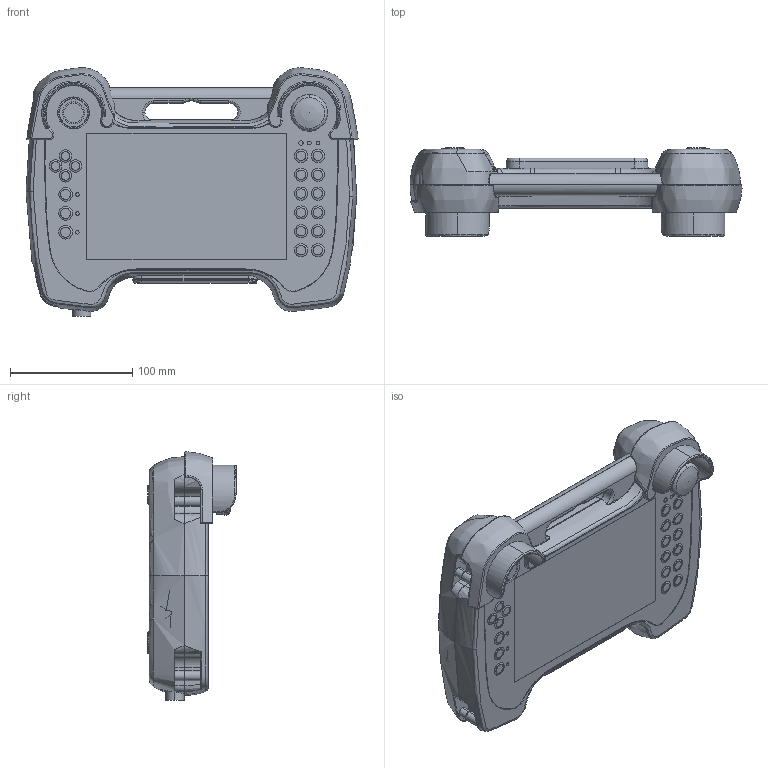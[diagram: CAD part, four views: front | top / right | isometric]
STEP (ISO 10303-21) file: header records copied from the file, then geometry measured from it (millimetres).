
FILE_DESCRIPTION (( 'STEP AP203' ), '1' );
FILE_NAME ('a.STEP', '2013-09-25T07:35:51', ( 'HW' ), ( '' ), 'SwSTEP 2.0', 'SolidWorks 2008', '' );
FILE_SCHEMA (( 'CONFIG_CONTROL_DESIGN' ));
Products named in the file (10): a.sldasm-Part-2; a.sldasm-Part-8; a.sldasm-Part-7; a; a.sldasm-Part-1; a.sldasm-Part-3; a.sldasm-Part-4; a.sldasm-Part-5; a.sldasm-Part-6; a.sldasm-Part-9
Assembly tree (9 placements, depth 2):
  a
    a.sldasm-Part-7
    a.sldasm-Part-1
    a.sldasm-Part-3
    a.sldasm-Part-5
    a.sldasm-Part-6
    a.sldasm-Part-8
    a.sldasm-Part-2
    a.sldasm-Part-4
    a.sldasm-Part-9
Bounding box: 271.21 x 72 x 203.06 mm (x, y, z)
Volume: 596012.7 mm3; surface area: 357054.1 mm2
Topology: 9 solids, 9 shells, 1329 faces, 3449 edges, 2194 vertices
Faces by surface type: bspline 501, plane 394, cylinder 299, cone 79, torus 46, sphere 10
Entity records: 87226 total; most frequent: CARTESIAN_POINT 58008, ORIENTED_EDGE 6844, DIRECTION 4428, EDGE_CURVE 3422, VERTEX_POINT 2192, AXIS2_PLACEMENT_3D 1725, B_SPLINE_CURVE_WITH_KNOTS 1461, EDGE_LOOP 1454
